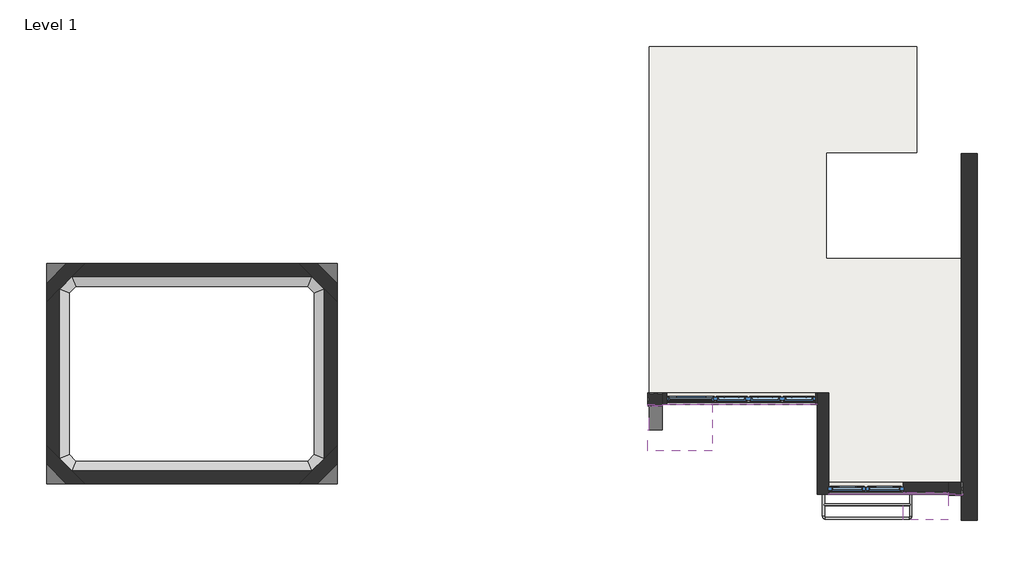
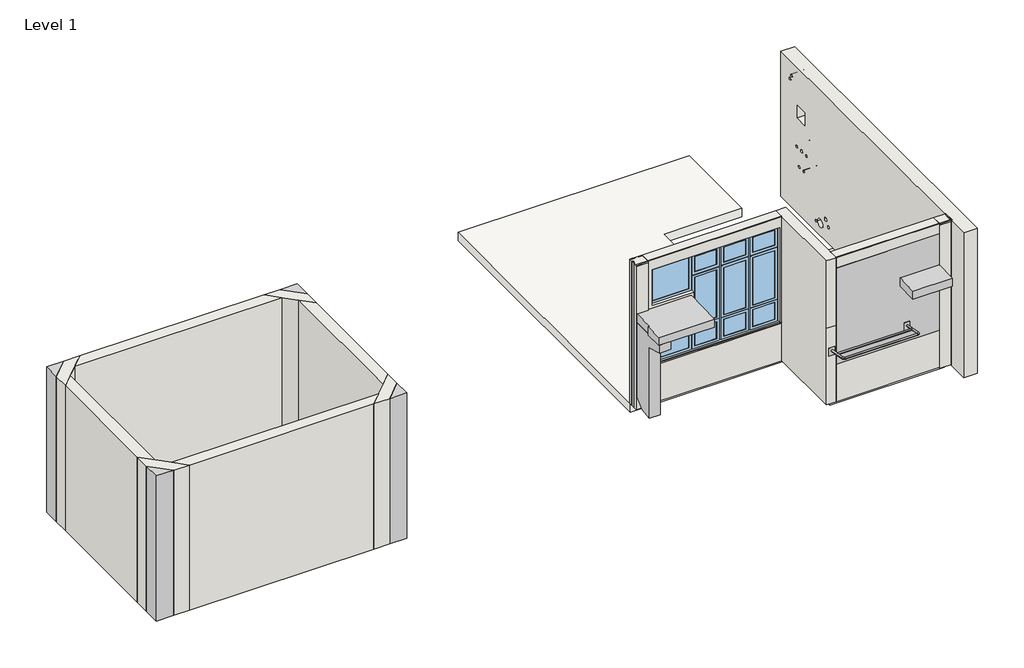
# One storey, incomplete: 26 proxies, 14 walls, 2 windows, 1 slab.
"""IFC4 building model written with IfcOpenShell, lengths in millimetres."""

from ifc_helpers import new_model, si_unit, frame, origin, origin_with_axes, place, context, project, spatial, polyline, circle_curve, outline, extrude, faceted_brep, transform, mapped, element, save
from ifc_brep_helpers import plane_surface, revolved_surface, advanced_brep
from components import generic_models_a9f7fed1, concrete_930x750mm_175e94f5, gmd_non_haa_facade_7_gmd_non_haa_facade_7_836f1545, window_dd2f97a1, glass_x5_4ce3d7e7

model = new_model("IFC4")

# Units and contexts
model_context = context("Model", 3, world=origin())
ifc_project = project(units=[si_unit("LENGTHUNIT", "METRE", prefix="MILLI")], contexts=[model_context])

# Site, building, storey
site = spatial("IfcSite", under=ifc_project)
building = spatial("IfcBuilding", under=site)
storey = spatial("IfcBuildingStorey", under=building, Name="Level 1", Elevation=0.0)

# Proxies
placement = place(None, origin())
element("IfcBuildingElementProxy", 1, Name="Wall Sweeps", at=placement, inside=storey, context=model_context, shape_type="Brep", body=[
    faceted_brep([(-64.9378587, 6827.1106614, 0.0), (-127.069893, 6677.1106614, 0.0), (-127.069893, 6677.1106614, 150.0), (3519.6633815, 6827.1106614, 0.0), (3581.7954158, 6677.1106614, 150.0), (3581.7954158, 6677.1106614, 0.0)], [[[0, 1, 2]], [[3, 4, 5]], [[1, 0, 3, 5]], [[2, 1, 5, 4]], [[0, 2, 4, 3]]]),
])
element("IfcBuildingElementProxy", 2, Name="Wall Sweeps", at=placement, inside=storey, context=model_context, shape_type="Brep", body=[
    faceted_brep([(3622.9366849, 6930.3839648, 0.0), (3772.9366849, 6868.2519304, 0.0), (3772.9366849, 6868.2519304, 150.0), (3622.9366849, 9430.9441391, 0.0), (3772.9366849, 9493.0761735, 150.0), (3772.9366849, 9493.0761735, 0.0)], [[[0, 1, 2]], [[3, 4, 5]], [[1, 0, 3, 5]], [[2, 1, 5, 4]], [[0, 2, 4, 3]]]),
])
element("IfcBuildingElementProxy", 3, Name="Wall Sweeps", at=placement, inside=storey, context=model_context, shape_type="Brep", body=[
    faceted_brep([(3519.6633815, 9534.2174426, 0.0), (3581.7954158, 9684.2174426, 0.0), (3581.7954158, 9684.2174426, 150.0), (-64.9378587, 9534.2174426, 0.0), (-127.069893, 9684.2174426, 150.0), (-127.069893, 9684.2174426, 0.0)], [[[0, 1, 2]], [[3, 4, 5]], [[1, 0, 3, 5]], [[2, 1, 5, 4]], [[0, 2, 4, 3]]]),
])
element("IfcBuildingElementProxy", 4, Name="Wall Sweeps", at=placement, inside=storey, context=model_context, shape_type="Brep", body=[
    faceted_brep([(-64.9378587, 9534.2174426, 0.0), (-127.069893, 9684.2174426, 0.0), (-127.069893, 9684.2174426, 150.0), (-168.2111621, 9430.9441391, 0.0), (-318.2111621, 9493.0761735, 150.0), (-318.2111621, 9493.0761735, 0.0)], [[[0, 1, 2]], [[3, 4, 5]], [[1, 0, 3, 5]], [[2, 1, 5, 4]], [[0, 2, 4, 3]]]),
])
element("IfcBuildingElementProxy", 5, Name="Wall Sweeps", at=placement, inside=storey, context=model_context, shape_type="Brep", body=[
    faceted_brep([(-168.2111621, 9430.9441391, 0.0), (-318.2111621, 9493.0761735, 0.0), (-318.2111621, 9493.0761735, 150.0), (-168.2111621, 6930.3839648, 0.0), (-318.2111621, 6868.2519304, 150.0), (-318.2111621, 6868.2519304, 0.0)], [[[0, 1, 2]], [[3, 4, 5]], [[1, 0, 3, 5]], [[2, 1, 5, 4]], [[0, 2, 4, 3]]]),
])
element("IfcBuildingElementProxy", 6, Name="PRF-SWP-HAA-Concrete Triangle-218mm", ObjectType="PRF-SWP-HAA-Concrete Triangle-218mm", at=placement, inside=storey, context=model_context, shape_type="SweptSolid", body=[
    extrude(outline(polyline([(-209.9126055, 9884.2174426), (-518.2111621, 9575.918886), (-518.2111621, 9884.2174426), (-209.9126055, 9884.2174426)])), origin_with_axes(), (0.0, 0.0, 1.0), 2750.0),
])
element("IfcBuildingElementProxy", 7, Name="Wall Sweeps", at=placement, inside=storey, context=model_context, shape_type="Brep", body=[
    faceted_brep([(3519.6633815, 9534.2174426, 0.0), (3581.7954158, 9684.2174426, 150.0), (3581.7954158, 9684.2174426, 0.0), (3622.9366849, 9430.9441391, 0.0), (3772.9366849, 9493.0761735, 0.0), (3772.9366849, 9493.0761735, 150.0)], [[[0, 1, 2]], [[3, 4, 5]], [[0, 2, 4, 3]], [[2, 1, 5, 4]], [[1, 0, 3, 5]]]),
])
element("IfcBuildingElementProxy", 8, Name="PRF-SWP-HAA-Concrete Triangle-218mm", ObjectType="PRF-SWP-HAA-Concrete Triangle-218mm", at=placement, inside=storey, context=model_context, shape_type="SweptSolid", body=[
    extrude(outline(polyline([(3664.6381283, 9884.2174426), (3972.9366849, 9884.2174426), (3972.9366849, 9575.918886), (3664.6381283, 9884.2174426)])), origin_with_axes(), (0.0, 0.0, 1.0), 2750.0),
])
element("IfcBuildingElementProxy", 9, Name="Wall Sweeps", at=placement, inside=storey, context=model_context, shape_type="Brep", body=[
    faceted_brep([(-64.9378587, 6827.1106614, 0.0), (-127.069893, 6677.1106614, 150.0), (-127.069893, 6677.1106614, 0.0), (-168.2111621, 6930.3839648, 0.0), (-318.2111621, 6868.2519304, 0.0), (-318.2111621, 6868.2519304, 150.0)], [[[0, 1, 2]], [[3, 4, 5]], [[0, 2, 4, 3]], [[2, 1, 5, 4]], [[1, 0, 3, 5]]]),
])
element("IfcBuildingElementProxy", 10, Name="PRF-SWP-HAA-Concrete Triangle-218mm", ObjectType="PRF-SWP-HAA-Concrete Triangle-218mm", at=placement, inside=storey, context=model_context, shape_type="SweptSolid", body=[
    extrude(outline(polyline([(-209.9126055, 6477.1106614), (-518.2111621, 6477.1106614), (-518.2111621, 6785.409218), (-209.9126055, 6477.1106614)])), origin_with_axes(), (0.0, 0.0, 1.0), 2750.0),
])
element("IfcBuildingElementProxy", 11, Name="Wall Sweeps", at=placement, inside=storey, context=model_context, shape_type="Brep", body=[
    faceted_brep([(3519.6633815, 6827.1106614, 0.0), (3581.7954158, 6677.1106614, 0.0), (3581.7954158, 6677.1106614, 150.0), (3622.9366849, 6930.3839648, 0.0), (3772.9366849, 6868.2519304, 150.0), (3772.9366849, 6868.2519304, 0.0)], [[[0, 1, 2]], [[3, 4, 5]], [[1, 0, 3, 5]], [[2, 1, 5, 4]], [[0, 2, 4, 3]]]),
])
element("IfcBuildingElementProxy", 12, Name="PRF-SWP-HAA-Concrete Triangle-218mm", ObjectType="PRF-SWP-HAA-Concrete Triangle-218mm", at=placement, inside=storey, context=model_context, shape_type="SweptSolid", body=[
    extrude(outline(polyline([(3664.6381283, 6477.1106614), (3972.9366849, 6785.409218), (3972.9366849, 6477.1106614), (3664.6381283, 6477.1106614)])), origin_with_axes(), (0.0, 0.0, 1.0), 2750.0),
])
element("IfcBuildingElementProxy", 13, Name="30mm D X 1825mm H Facade Wall Recess", ObjectType="30mm D X 1825mm H Facade Wall Recess", at=placement, inside=storey, context=model_context, shape_type="SweptSolid", body=[
    extrude(outline(polyline([(6319.2174378, 725.0), (6319.2174378, 2550.0), (6349.2174378, 2550.0), (6349.2174378, 750.0), (6319.2174378, 725.0)])), frame((11572.1249538, 0.0, 0.0), z_axis=(1.0, 0.0, 0.0), x_axis=(0.0, 1.0, 0.0)), (0.0, 0.0, 1.0), 1849.9534875),
])
element("IfcBuildingElementProxy", 14, Name="Reveal 30W x 25H Chamfer", ObjectType="Reveal 30W x 25H Chamfer", at=placement, inside=storey, context=model_context, shape_type="SweptSolid", body=[
    extrude(outline(polyline([(7734.2174426, 750.0), (7704.2174426, 725.0), (7704.2174426, 750.0), (7734.2174426, 750.0)])), frame((8997.125007, 0.0, 0.0), z_axis=(1.0, 0.0, 0.0), x_axis=(0.0, 1.0, 0.0)), (0.0, 0.0, 1.0), 2399.9999467),
])
generic_models_shape = generic_models_a9f7fed1(model_context)
element("IfcBuildingElementProxy", 15, Name="GMD-NON-HAA-Laundry Rack  for D-3 : GMD-NON-HAA-Metal Laundry Rack for D-3", ObjectType="GMD-NON-HAA-Laundry Rack  for D-3 : GMD-NON-HAA-Metal Laundry Rack for D-3", at=placement, inside=storey, context=model_context, shape_type="MappedRepresentation", body=[
    mapped(generic_models_shape, transform((12177.1250044, 6254.2174362, 0.0), x_axis=(-1.0, 0.0, 0.0), y_axis=(0.0, -1.0, 0.0), z_axis=(0.0, 0.0, 1.0))),
])
element("IfcBuildingElementProxy", 16, Name="200mm Facade Wall Joint", ObjectType="200mm Facade Wall Joint", at=placement, inside=storey, context=model_context, shape_type="SweptSolid", body=[
    extrude(outline(polyline([(8912.125007, 7884.2174426), (8997.125007, 7884.2174426), (8997.125007, 7864.2174426), (8932.125007, 7864.2174426), (8912.125007, 7884.2174426)])), frame((0.0, 0.0, 20.0), z_axis=(0.0, 0.0, 1.0), x_axis=(1.0, 0.0, 0.0)), (0.0, 0.0, 1.0), 2730.0),
    extrude(outline(polyline([(8862.125007, 7864.2174426), (8797.125007, 7864.2174426), (8797.125007, 7884.2174426), (8882.125007, 7884.2174426), (8862.125007, 7864.2174426)])), frame((0.0, 0.0, 20.0), z_axis=(0.0, 0.0, 1.0), x_axis=(1.0, 0.0, 0.0)), (0.0, 0.0, 1.0), 2730.0),
])
element("IfcBuildingElementProxy", 17, Name="GMD-OTR-HAA-AC_Platform-Type2-Concrete : Concrete- 650X425mm", ObjectType="GMD-OTR-HAA-AC_Platform-Type2-Concrete : Concrete- 650X425mm", at=placement, inside=storey, context=model_context, shape_type="Brep", body=[
    faceted_brep([(13422.1250044, 6349.2174378, 1800.0), (13422.1250044, 6349.2174378, 1965.0), (13422.1250044, 5924.2174378, 1950.0), (13422.1250044, 5924.2174378, 1800.0), (12722.1250044, 6349.2174378, 1800.0), (12722.1250044, 5924.2174378, 1800.0), (12722.1250044, 5924.2174378, 1950.0), (12722.1250044, 6349.2174378, 1965.0), (13362.1250044, 6349.2174378, 1800.0), (13354.1250044, 6349.2174378, 1812.0), (13342.1250044, 6349.2174378, 1812.0), (13342.1250044, 6349.2174378, 1800.0), (12802.1250044, 6349.2174378, 1800.0), (12802.1250044, 6349.2174378, 1812.0), (12790.1250044, 6349.2174378, 1812.0), (12782.1250044, 6349.2174378, 1800.0), (12782.1250044, 5984.2174378, 1800.0), (13362.1250044, 5984.2174378, 1800.0), (13342.1250044, 6004.2174378, 1800.0), (12802.1250044, 6004.2174378, 1800.0), (12802.1250044, 6004.2174378, 1812.0), (12790.1250044, 5992.2174378, 1812.0), (13342.1250044, 6004.2174378, 1812.0), (13354.1250044, 5992.2174378, 1812.0)], [[[0, 1, 2, 3]], [[4, 5, 6, 7]], [[1, 0, 8, 9, 10, 11, 12, 13, 14, 15, 4, 7]], [[2, 1, 7, 6]], [[3, 2, 6, 5]], [[0, 3, 5, 4, 15, 16, 17, 8]], [[12, 11, 18, 19]], [[19, 20, 13, 12]], [[14, 21, 16, 15]], [[13, 20, 22, 10, 9, 23, 21, 14]], [[20, 19, 18, 22]], [[16, 21, 23, 17]], [[10, 22, 18, 11]], [[23, 9, 8, 17]]]),
])
concrete_930x750mm_shape = concrete_930x750mm_175e94f5(model_context)
element("IfcBuildingElementProxy", 18, Name="GMD-OTR-HAA-AC_Platform-Type4-Concrete : Concrete-930X750mm", ObjectType="GMD-OTR-HAA-AC_Platform-Type4-Concrete : Concrete-930X750mm", at=placement, inside=storey, context=model_context, shape_type="MappedRepresentation", body=[
    mapped(concrete_930x750mm_shape, transform((8777.1251524, 7704.2174426, -140.0), x_axis=(1.0, 0.0, 0.0), y_axis=(0.0, 1.0, 0.0), z_axis=(0.0, 0.0, 1.0))),
])
element("IfcBuildingElementProxy", 19, Name="Facade Head Chamfer 25.78x25.78", ObjectType="Facade Head Chamfer 25.78x25.78", at=placement, inside=storey, context=model_context, shape_type="SweptSolid", body=[
    extrude(outline(polyline([(6299.2174378, 2750.0), (6324.9974378, 2750.0), (6299.2174378, 2724.22), (6299.2174378, 2750.0)])), frame((13422.1250044, 0.0, 0.0), z_axis=(1.0, 0.0, 0.0), x_axis=(0.0, 1.0, 0.0)), (0.0, 0.0, 1.0), 219.9534369),
])
element("IfcBuildingElementProxy", 20, Name="Facade Head Chamfer 25.78x25.78", ObjectType="Facade Head Chamfer 25.78x25.78", at=placement, inside=storey, context=model_context, shape_type="SweptSolid", body=[
    extrude(outline(polyline([(7684.2174426, 2750.0), (7709.9974426, 2750.0), (7684.2174426, 2724.22), (7684.2174426, 2750.0)])), frame((8777.125007, 0.0, 0.0), z_axis=(1.0, 0.0, 0.0), x_axis=(0.0, 1.0, 0.0)), (0.0, 0.0, 1.0), 220.0),
])
element("IfcBuildingElementProxy", 21, Name="Facade Head Chamfer 5.78x5.78", ObjectType="Facade Head Chamfer 5.78x5.78", at=placement, inside=storey, context=model_context, shape_type="SweptSolid", body=[
    extrude(outline(polyline([(6324.9974378, 2750.0), (6319.2174378, 2744.22), (6319.2174378, 2750.0), (6324.9974378, 2750.0)])), frame((11572.2847977, 0.0, 0.0), z_axis=(1.0, 0.0, 0.0), x_axis=(0.0, 1.0, 0.0)), (0.0, 0.0, 1.0), 1849.8402067),
])
element("IfcBuildingElementProxy", 22, Name="Facade Head Chamfer 5.78x5.78", ObjectType="Facade Head Chamfer 5.78x5.78", at=placement, inside=storey, context=model_context, shape_type="SweptSolid", body=[
    extrude(outline(polyline([(7709.9974426, 2750.0), (7704.2174426, 2744.22), (7704.2174426, 2750.0), (7709.9974426, 2750.0)])), frame((8997.125007, 0.0, 0.0), z_axis=(1.0, 0.0, 0.0), x_axis=(0.0, 1.0, 0.0)), (0.0, 0.0, 1.0), 2399.9999467),
])
element("IfcBuildingElementProxy", 23, Name="Facade Wall Joint", ObjectType="Facade Wall Joint", at=placement, inside=storey, context=model_context, shape_type="SweptSolid", body=[
    extrude(outline(polyline([(13622.0784413, 6414.2174378), (13622.0784413, 6499.2174378), (13642.0784413, 6499.2174378), (13642.0784413, 6434.2174378), (13622.0784413, 6414.2174378)])), origin_with_axes(), (0.0, 0.0, 1.0), 2750.0),
    extrude(outline(polyline([(13642.0784413, 6364.2174378), (13642.0784413, 6299.2174378), (13622.0784413, 6299.2174378), (13622.0784413, 6384.2174378), (13642.0784413, 6364.2174378)])), origin_with_axes(), (0.0, 0.0, 1.0), 2750.0),
])
element("IfcBuildingElementProxy", 24, Name="Facade Wall Key", ObjectType="Facade Wall Key", at=placement, inside=storey, context=model_context, shape_type="SweptSolid", body=[
    extrude(outline(polyline([(13642.0784413, 6364.2154743), (13622.0784413, 6384.2154743), (13622.0784413, 6414.2154743), (13642.0784413, 6434.2154743), (13642.0784413, 6364.2154743)])), frame((0.0, 0.0, 20.0), z_axis=(0.0, 0.0, 1.0), x_axis=(1.0, 0.0, 0.0)), (0.0, 0.0, 1.0), 2730.0),
])
element("IfcBuildingElementProxy", 25, Name="Facade Wall Key", ObjectType="Facade Wall Key", at=placement, inside=storey, context=model_context, shape_type="SweptSolid", body=[
    extrude(outline(polyline([(8777.125007, 7749.2174426), (8777.125007, 7819.2174426), (8797.125007, 7799.2174426), (8797.125007, 7769.2174426), (8777.125007, 7749.2174426)])), frame((0.0, 0.0, 20.0), z_axis=(0.0, 0.0, 1.0), x_axis=(1.0, 0.0, 0.0)), (0.0, 0.0, 1.0), 2730.0),
])
gmd_non_haa_facade_7_gmd_non_haa_facade_7_shape = gmd_non_haa_facade_7_gmd_non_haa_facade_7_836f1545(model_context)
element("IfcBuildingElementProxy", 26, Name="GMD-NON-HAA-Facade 7 : GMD-NON-HAA-Facade 7", ObjectType="GMD-NON-HAA-Facade 7 : GMD-NON-HAA-Facade 7", at=placement, inside=storey, context=model_context, shape_type="MappedRepresentation", body=[
    mapped(gmd_non_haa_facade_7_gmd_non_haa_facade_7_shape, transform((8997.125007, 7684.2174426, 75.0), x_axis=(-1.0, 0.0, 0.0), y_axis=(0.0, -1.0, 0.0), z_axis=(0.0, 0.0, 1.0))),
])

# Slab
element("IfcSlab", 27, ObjectType="OGS-HAA-Concrete-160mm", at=placement, inside=storey, context=model_context, shape_type="SweptSolid", body=[
    extrude(outline(polyline([(11572.1249538, 6509.2227099), (11572.1249538, 7894.2227146), (8797.125007, 7894.2227146), (8797.125007, 13244.3917942), (12937.1250118, 13244.3917942), (12937.1250118, 11604.2221918), (11537.1249507, 11604.2221918), (11537.1249507, 9964.2221915), (13622.0784413, 9964.2221915), (13622.0784413, 6509.2227099), (11572.1249538, 6509.2227099)])), frame((0.0, 0.0, -160.0), z_axis=(0.0, 0.0, 1.0), x_axis=(1.0, 0.0, 0.0)), (0.0, 0.0, 1.0), 160.0),
])

# Walls
element("IfcWall", 28, ObjectType="AWL-HAA-Concrete Water Tank-250mm", at=placement, inside=storey, context=model_context, shape_type="SweptSolid", body=[
    extrude(outline(polyline([(3381.7954158, 6477.1106614), (72.930107, 6477.1106614), (-127.069893, 6677.1106614), (3581.7954158, 6677.1106614), (3381.7954158, 6477.1106614)])), origin_with_axes(), (0.0, 0.0, 1.0), 2750.0),
])
element("IfcWall", 29, ObjectType="AWL-HAA-Concrete Water Tank-250mm", at=placement, inside=storey, context=model_context, shape_type="SweptSolid", body=[
    extrude(outline(polyline([(3972.9366849, 9293.0761735), (3972.9366849, 7068.2519304), (3772.9366849, 6868.2519304), (3772.9366849, 9493.0761735), (3972.9366849, 9293.0761735)])), origin_with_axes(), (0.0, 0.0, 1.0), 2750.0),
])
element("IfcWall", 30, ObjectType="AWL-HAA-Concrete Water Tank-250mm", at=placement, inside=storey, context=model_context, shape_type="SweptSolid", body=[
    extrude(outline(polyline([(72.930107, 9884.2174426), (3381.7954158, 9884.2174426), (3581.7954158, 9684.2174426), (-127.069893, 9684.2174426), (72.930107, 9884.2174426)])), origin_with_axes(), (0.0, 0.0, 1.0), 2750.0),
])
element("IfcWall", 31, ObjectType="AWL-HAA-Concrete Water Tank-250mm", at=placement, inside=storey, context=model_context, shape_type="Brep", body=[
    faceted_brep([(-209.9126055, 9884.2174426, 0.0), (-518.2111621, 9575.918886, 0.0), (-518.2111621, 9575.918886, 2750.0), (-209.9126055, 9884.2174426, 2750.0), (72.930107, 9884.2174426, 2750.0), (-127.069893, 9684.2174426, 2750.0), (-318.2111621, 9493.0761735, 2750.0), (-518.2111621, 9293.0761735, 2750.0), (-518.2111621, 9293.0761735, 0.0), (-318.2111621, 9493.0761735, 0.0), (-127.069893, 9684.2174426, 0.0), (72.930107, 9884.2174426, 0.0)], [[[0, 1, 2, 3]], [[4, 5, 6, 7, 8, 9, 10, 11]], [[1, 0, 11, 10, 9, 8]], [[3, 2, 7, 6, 5, 4]], [[0, 3, 4, 11]], [[2, 1, 8, 7]]]),
])
element("IfcWall", 32, ObjectType="AWL-HAA-Concrete Water Tank-250mm", at=placement, inside=storey, context=model_context, shape_type="SweptSolid", body=[
    extrude(outline(polyline([(-518.2111621, 7068.2519304), (-518.2111621, 9293.0761735), (-318.2111621, 9493.0761735), (-318.2111621, 6868.2519304), (-518.2111621, 7068.2519304)])), origin_with_axes(), (0.0, 0.0, 1.0), 2750.0),
])
element("IfcWall", 33, ObjectType="AWL-HAA-Concrete Water Tank-250mm", at=placement, inside=storey, context=model_context, shape_type="Brep", body=[
    faceted_brep([(3972.9366849, 9293.0761735, 2750.0), (3772.9366849, 9493.0761735, 2750.0), (3581.7954158, 9684.2174426, 2750.0), (3381.7954158, 9884.2174426, 2750.0), (3381.7954158, 9884.2174426, 0.0), (3581.7954158, 9684.2174426, 0.0), (3772.9366849, 9493.0761735, 0.0), (3972.9366849, 9293.0761735, 0.0), (3972.9366849, 9575.918886, 0.0), (3664.6381283, 9884.2174426, 0.0), (3664.6381283, 9884.2174426, 2750.0), (3972.9366849, 9575.918886, 2750.0)], [[[0, 1, 2, 3, 4, 5, 6, 7]], [[8, 9, 10, 11]], [[9, 8, 7, 6, 5, 4]], [[3, 2, 1, 0, 11, 10]], [[0, 7, 8, 11]], [[4, 3, 10, 9]]]),
])
element("IfcWall", 34, ObjectType="AWL-HAA-Concrete Water Tank-250mm", at=placement, inside=storey, context=model_context, shape_type="Brep", body=[
    faceted_brep([(-518.2111621, 7068.2519304, 2750.0), (-318.2111621, 6868.2519304, 2750.0), (-127.069893, 6677.1106614, 2750.0), (72.930107, 6477.1106614, 2750.0), (72.930107, 6477.1106614, 0.0), (-127.069893, 6677.1106614, 0.0), (-318.2111621, 6868.2519304, 0.0), (-518.2111621, 7068.2519304, 0.0), (-518.2111621, 6785.409218, 0.0), (-209.9126055, 6477.1106614, 0.0), (-209.9126055, 6477.1106614, 2750.0), (-518.2111621, 6785.409218, 2750.0)], [[[0, 1, 2, 3, 4, 5, 6, 7]], [[8, 9, 10, 11]], [[9, 8, 7, 6, 5, 4]], [[3, 2, 1, 0, 11, 10]], [[4, 3, 10, 9]], [[0, 7, 8, 11]]]),
])
element("IfcWall", 35, ObjectType="AWL-HAA-Concrete Water Tank-250mm", at=placement, inside=storey, context=model_context, shape_type="Brep", body=[
    faceted_brep([(3664.6381283, 6477.1106614, 0.0), (3972.9366849, 6785.409218, 0.0), (3972.9366849, 6785.409218, 2750.0), (3664.6381283, 6477.1106614, 2750.0), (3381.7954158, 6477.1106614, 2750.0), (3581.7954158, 6677.1106614, 2750.0), (3772.9366849, 6868.2519304, 2750.0), (3972.9366849, 7068.2519304, 2750.0), (3972.9366849, 7068.2519304, 0.0), (3772.9366849, 6868.2519304, 0.0), (3581.7954158, 6677.1106614, 0.0), (3381.7954158, 6477.1106614, 0.0)], [[[0, 1, 2, 3]], [[4, 5, 6, 7, 8, 9, 10, 11]], [[1, 0, 11, 10, 9, 8]], [[3, 2, 7, 6, 5, 4]], [[0, 3, 4, 11]], [[2, 1, 8, 7]]]),
])
element("IfcWall", 36, ObjectType="AWL-HAA-Concrete-250mm", at=placement, inside=storey, context=model_context, shape_type="AdvancedBrep", body=[
    advanced_brep(
    [(13622.0784413, 5914.2158321, 0.0), (13622.0784413, 5914.2158321, 2750.0), (13622.0784413, 6299.2174378, 2750.0), (13622.0784413, 6299.2174378, 0.0), (13622.0784413, 11584.2169271, 2750.0), (13622.0784413, 11584.2169271, 0.0), (13622.0784413, 6499.2174378, 0.0), (13622.0784413, 6499.2174378, 2750.0), (13622.0784413, 10474.2173238, 200.0), (13622.0784413, 10514.2173238, 200.0), (13622.0784413, 11239.2169271, 2485.0), (13622.0784413, 11279.2169271, 2485.0), (13622.0784413, 10774.3635224, 1245.0), (13622.0784413, 10814.3635224, 1245.0), (13622.0784413, 10919.3583918, 1245.0), (13622.0784413, 10969.3583918, 1245.0), (13622.0784413, 11074.3583918, 1245.0), (13622.0784413, 11114.3583918, 1245.0), (13622.0784413, 10849.3635224, 900.0), (13622.0784413, 10889.3635224, 900.0), (13622.0784413, 10999.3635224, 900.0), (13622.0784413, 11039.3635224, 900.0), (13622.0784413, 10084.0299246, 310.0), (13622.0784413, 10134.0299246, 310.0), (13622.0784413, 10161.7173238, 405.0), (13622.0784413, 10226.7173238, 405.0), (13622.0784413, 10289.2039242, 235.0), (13622.0784413, 10439.2039242, 235.0), (13622.0784413, 11289.2169271, 2400.3), (13622.0784413, 11329.2169271, 2400.3), (13622.0784413, 11074.2168818, 2035.0), (13622.0784413, 10834.3583918, 2035.0), (13622.0784413, 10834.3583918, 1795.0), (13622.0784413, 11074.2168818, 1795.0), (13622.0784413, 6414.2174378, 0.0), (13622.0784413, 6384.2174378, 0.0), (13622.0784413, 6384.2174378, 2750.0), (13622.0784413, 6414.2174378, 2750.0), (13872.0784413, 5914.2158321, 0.0), (13872.0784413, 11584.2169271, 0.0), (13872.0784413, 11584.2169271, 2750.0), (13872.0784413, 5914.2158321, 2750.0), (13872.0784413, 10514.2173238, 200.0), (13872.0784413, 10474.2173238, 200.0), (13872.0784413, 11279.2169271, 2485.0), (13872.0784413, 11239.2169271, 2485.0), (13872.0784413, 10814.3635224, 1245.0), (13872.0784413, 10774.3635224, 1245.0), (13872.0784413, 10969.3583918, 1245.0), (13872.0784413, 10919.3583918, 1245.0), (13872.0784413, 11114.3583918, 1245.0), (13872.0784413, 11074.3583918, 1245.0), (13872.0784413, 10889.3635224, 900.0), (13872.0784413, 10849.3635224, 900.0), (13872.0784413, 11039.3635224, 900.0), (13872.0784413, 10999.3635224, 900.0), (13872.0784413, 10134.0299246, 310.0), (13872.0784413, 10084.0299246, 310.0), (13872.0784413, 10226.7173238, 405.0), (13872.0784413, 10161.7173238, 405.0), (13872.0784413, 10439.2039242, 235.0), (13872.0784413, 10289.2039242, 235.0), (13872.0784413, 11329.2169271, 2400.3), (13872.0784413, 11289.2169271, 2400.3), (13872.0784413, 10834.3583918, 2035.0), (13872.0784413, 11074.2168818, 2035.0), (13872.0784413, 11074.2168818, 1795.0), (13872.0784413, 10834.3583918, 1795.0), (13642.0784413, 6299.2174378, 0.0), (13642.0784413, 6364.2174378, 0.0), (13642.0784413, 6434.2174378, 0.0), (13642.0784413, 6499.2174378, 0.0), (13642.0784413, 6499.2174378, 2750.0), (13642.0784413, 6434.2174378, 2750.0), (13642.0784413, 6364.2174378, 2750.0), (13642.0784413, 6299.2174378, 2750.0)],
    [
        (0, 1),
        (1, 2),
        (2, 3),
        (3, 0),
        (4, 5),
        (5, 6),
        (6, 7),
        (7, 4),
        (8, 9, circle_curve(frame((13622.0784413, 10494.2173238, 200.0), z_axis=(1.0, 0.0, 0.0), x_axis=(0.0, 1.0, 0.0)), 20.0)),
        (9, 8, circle_curve(frame((13622.0784413, 10494.2173238, 200.0), z_axis=(1.0, 0.0, 0.0), x_axis=(0.0, 1.0, 0.0)), 20.0)),
        (10, 11, circle_curve(frame((13622.0784413, 11259.2169271, 2485.0), z_axis=(1.0, 0.0, 0.0), x_axis=(0.0, 1.0, 0.0)), 20.0)),
        (11, 10, circle_curve(frame((13622.0784413, 11259.2169271, 2485.0), z_axis=(1.0, 0.0, 0.0), x_axis=(0.0, 1.0, 0.0)), 20.0)),
        (12, 13, circle_curve(frame((13622.0784413, 10794.3635224, 1245.0), z_axis=(1.0, 0.0, 0.0), x_axis=(0.0, 1.0, 0.0)), 20.0)),
        (13, 12, circle_curve(frame((13622.0784413, 10794.3635224, 1245.0), z_axis=(1.0, 0.0, 0.0), x_axis=(0.0, 1.0, 0.0)), 20.0)),
        (14, 15, circle_curve(frame((13622.0784413, 10944.3583918, 1245.0), z_axis=(1.0, 0.0, 0.0), x_axis=(0.0, 1.0, 0.0)), 25.0)),
        (15, 14, circle_curve(frame((13622.0784413, 10944.3583918, 1245.0), z_axis=(1.0, 0.0, 0.0), x_axis=(0.0, 1.0, 0.0)), 25.0)),
        (16, 17, circle_curve(frame((13622.0784413, 11094.3583918, 1245.0), z_axis=(1.0, 0.0, 0.0), x_axis=(0.0, 1.0, 0.0)), 20.0)),
        (17, 16, circle_curve(frame((13622.0784413, 11094.3583918, 1245.0), z_axis=(1.0, 0.0, 0.0), x_axis=(0.0, 1.0, 0.0)), 20.0)),
        (18, 19, circle_curve(frame((13622.0784413, 10869.3635224, 900.0), z_axis=(1.0, 0.0, 0.0), x_axis=(0.0, 1.0, 0.0)), 20.0)),
        (19, 18, circle_curve(frame((13622.0784413, 10869.3635224, 900.0), z_axis=(1.0, 0.0, 0.0), x_axis=(0.0, 1.0, 0.0)), 20.0)),
        (20, 21, circle_curve(frame((13622.0784413, 11019.3635224, 900.0), z_axis=(1.0, 0.0, 0.0), x_axis=(0.0, 1.0, 0.0)), 20.0)),
        (21, 20, circle_curve(frame((13622.0784413, 11019.3635224, 900.0), z_axis=(1.0, 0.0, 0.0), x_axis=(0.0, 1.0, 0.0)), 20.0)),
        (22, 23, circle_curve(frame((13622.0784413, 10109.0299246, 310.0), z_axis=(1.0, 0.0, 0.0), x_axis=(0.0, 1.0, 0.0)), 25.0)),
        (23, 22, circle_curve(frame((13622.0784413, 10109.0299246, 310.0), z_axis=(1.0, 0.0, 0.0), x_axis=(0.0, 1.0, 0.0)), 25.0)),
        (24, 25, circle_curve(frame((13622.0784413, 10194.2173238, 405.0), z_axis=(1.0, 0.0, 0.0), x_axis=(0.0, 1.0, 0.0)), 32.5)),
        (25, 24, circle_curve(frame((13622.0784413, 10194.2173238, 405.0), z_axis=(1.0, 0.0, 0.0), x_axis=(0.0, 1.0, 0.0)), 32.5)),
        (26, 27, circle_curve(frame((13622.0784413, 10364.2039242, 235.0), z_axis=(1.0, 0.0, 0.0), x_axis=(0.0, 1.0, 0.0)), 75.0)),
        (27, 26, circle_curve(frame((13622.0784413, 10364.2039242, 235.0), z_axis=(1.0, 0.0, 0.0), x_axis=(0.0, 1.0, 0.0)), 75.0)),
        (28, 29, circle_curve(frame((13622.0784413, 11309.2169271, 2400.3), z_axis=(1.0, 0.0, 0.0), x_axis=(0.0, 1.0, 0.0)), 20.0)),
        (29, 28, circle_curve(frame((13622.0784413, 11309.2169271, 2400.3), z_axis=(1.0, 0.0, 0.0), x_axis=(0.0, 1.0, 0.0)), 20.0)),
        (30, 31),
        (31, 32),
        (32, 33),
        (33, 30),
        (34, 35),
        (35, 36),
        (36, 37),
        (37, 34),
        (38, 39),
        (39, 40),
        (40, 41),
        (41, 38),
        (42, 43, circle_curve(frame((13872.0784413, 10494.2173238, 200.0), z_axis=(-1.0, 0.0, 0.0), x_axis=(0.0, 1.0, 0.0)), 20.0)),
        (43, 42, circle_curve(frame((13872.0784413, 10494.2173238, 200.0), z_axis=(-1.0, 0.0, 0.0), x_axis=(0.0, 1.0, 0.0)), 20.0)),
        (44, 45, circle_curve(frame((13872.0784413, 11259.2169271, 2485.0), z_axis=(-1.0, 0.0, 0.0), x_axis=(0.0, 1.0, 0.0)), 20.0)),
        (45, 44, circle_curve(frame((13872.0784413, 11259.2169271, 2485.0), z_axis=(-1.0, 0.0, 0.0), x_axis=(0.0, 1.0, 0.0)), 20.0)),
        (46, 47, circle_curve(frame((13872.0784413, 10794.3635224, 1245.0), z_axis=(-1.0, 0.0, 0.0), x_axis=(0.0, 1.0, 0.0)), 20.0)),
        (47, 46, circle_curve(frame((13872.0784413, 10794.3635224, 1245.0), z_axis=(-1.0, 0.0, 0.0), x_axis=(0.0, 1.0, 0.0)), 20.0)),
        (48, 49, circle_curve(frame((13872.0784413, 10944.3583918, 1245.0), z_axis=(-1.0, 0.0, 0.0), x_axis=(0.0, 1.0, 0.0)), 25.0)),
        (49, 48, circle_curve(frame((13872.0784413, 10944.3583918, 1245.0), z_axis=(-1.0, 0.0, 0.0), x_axis=(0.0, 1.0, 0.0)), 25.0)),
        (50, 51, circle_curve(frame((13872.0784413, 11094.3583918, 1245.0), z_axis=(-1.0, 0.0, 0.0), x_axis=(0.0, 1.0, 0.0)), 20.0)),
        (51, 50, circle_curve(frame((13872.0784413, 11094.3583918, 1245.0), z_axis=(-1.0, 0.0, 0.0), x_axis=(0.0, 1.0, 0.0)), 20.0)),
        (52, 53, circle_curve(frame((13872.0784413, 10869.3635224, 900.0), z_axis=(-1.0, 0.0, 0.0), x_axis=(0.0, 1.0, 0.0)), 20.0)),
        (53, 52, circle_curve(frame((13872.0784413, 10869.3635224, 900.0), z_axis=(-1.0, 0.0, 0.0), x_axis=(0.0, 1.0, 0.0)), 20.0)),
        (54, 55, circle_curve(frame((13872.0784413, 11019.3635224, 900.0), z_axis=(-1.0, 0.0, 0.0), x_axis=(0.0, 1.0, 0.0)), 20.0)),
        (55, 54, circle_curve(frame((13872.0784413, 11019.3635224, 900.0), z_axis=(-1.0, 0.0, 0.0), x_axis=(0.0, 1.0, 0.0)), 20.0)),
        (56, 57, circle_curve(frame((13872.0784413, 10109.0299246, 310.0), z_axis=(-1.0, 0.0, 0.0), x_axis=(0.0, 1.0, 0.0)), 25.0)),
        (57, 56, circle_curve(frame((13872.0784413, 10109.0299246, 310.0), z_axis=(-1.0, 0.0, 0.0), x_axis=(0.0, 1.0, 0.0)), 25.0)),
        (58, 59, circle_curve(frame((13872.0784413, 10194.2173238, 405.0), z_axis=(-1.0, 0.0, 0.0), x_axis=(0.0, 1.0, 0.0)), 32.5)),
        (59, 58, circle_curve(frame((13872.0784413, 10194.2173238, 405.0), z_axis=(-1.0, 0.0, 0.0), x_axis=(0.0, 1.0, 0.0)), 32.5)),
        (60, 61, circle_curve(frame((13872.0784413, 10364.2039242, 235.0), z_axis=(-1.0, 0.0, 0.0), x_axis=(0.0, 1.0, 0.0)), 75.0)),
        (61, 60, circle_curve(frame((13872.0784413, 10364.2039242, 235.0), z_axis=(-1.0, 0.0, 0.0), x_axis=(0.0, 1.0, 0.0)), 75.0)),
        (62, 63, circle_curve(frame((13872.0784413, 11309.2169271, 2400.3), z_axis=(-1.0, 0.0, 0.0), x_axis=(0.0, 1.0, 0.0)), 20.0)),
        (63, 62, circle_curve(frame((13872.0784413, 11309.2169271, 2400.3), z_axis=(-1.0, 0.0, 0.0), x_axis=(0.0, 1.0, 0.0)), 20.0)),
        (64, 65),
        (65, 66),
        (66, 67),
        (67, 64),
        (38, 0),
        (3, 68),
        (68, 69),
        (69, 35),
        (34, 70),
        (70, 71),
        (71, 6),
        (5, 39),
        (41, 1),
        (40, 4),
        (7, 72),
        (72, 73),
        (73, 37),
        (36, 74),
        (74, 75),
        (75, 2),
        (8, 43),
        (42, 9),
        (10, 45),
        (44, 11),
        (12, 47),
        (46, 13),
        (14, 49),
        (48, 15),
        (16, 51),
        (50, 17),
        (18, 53),
        (52, 19),
        (20, 55),
        (54, 21),
        (22, 57),
        (56, 23),
        (24, 59),
        (58, 25),
        (26, 61),
        (60, 27),
        (28, 63),
        (62, 29),
        (30, 65),
        (64, 31),
        (67, 32),
        (66, 33),
        (73, 70),
        (72, 71),
        (69, 74),
        (75, 68),
    ],
    [
        plane_surface(frame((13622.0784413, 11584.2169271, 0.0), z_axis=(-1.0, 0.0, 0.0), x_axis=(0.0, -1.0, 0.0))),
        plane_surface(frame((13872.0784413, 11584.2169271, 0.0), z_axis=(1.0, 0.0, 0.0), x_axis=(0.0, 1.0, 0.0))),
        plane_surface(frame((13622.0784413, 11584.2169271, 0.0), z_axis=(0.0, 0.0, -1.0), x_axis=(1.0, 0.0, 0.0))),
        plane_surface(frame((13622.0784413, 5914.2158321, 0.0), z_axis=(0.0, -1.0, 0.0), x_axis=(1.0, 0.0, 0.0))),
        plane_surface(frame((13622.0784413, 5914.2158321, 2750.0), z_axis=(0.0, 0.0, 1.0), x_axis=(1.0, 0.0, 0.0))),
        plane_surface(frame((13622.0784413, 11584.2169271, 2750.0), z_axis=(0.0, 1.0, 0.0), x_axis=(1.0, 0.0, 0.0))),
        revolved_surface(polyline([(13872.0784413, 10514.2173238, 200.0), (13622.0784413, 10514.2173238, 200.0)]), (13747.0784413, 10494.2173238, 200.0), (1.0, 0.0, 0.0)),
        revolved_surface(polyline([(13872.0784413, 11279.2169271, 2485.0), (13622.0784413, 11279.2169271, 2485.0)]), (13747.0784413, 11259.2169271, 2485.0), (1.0, 0.0, 0.0)),
        revolved_surface(polyline([(13872.0784413, 10814.3635224, 1245.0), (13622.0784413, 10814.3635224, 1245.0)]), (13747.0784413, 10794.3635224, 1245.0), (1.0, 0.0, 0.0)),
        revolved_surface(polyline([(13872.0784413, 10969.3583918, 1245.0), (13622.0784413, 10969.3583918, 1245.0)]), (13747.0784413, 10944.3583918, 1245.0), (1.0, 0.0, 0.0)),
        revolved_surface(polyline([(13872.0784413, 11114.3583918, 1245.0), (13622.0784413, 11114.3583918, 1245.0)]), (13747.0784413, 11094.3583918, 1245.0), (1.0, 0.0, 0.0)),
        revolved_surface(polyline([(13872.0784413, 10889.3635224, 900.0), (13622.0784413, 10889.3635224, 900.0)]), (13747.0784413, 10869.3635224, 900.0), (1.0, 0.0, 0.0)),
        revolved_surface(polyline([(13872.0784413, 11039.3635224, 900.0), (13622.0784413, 11039.3635224, 900.0)]), (13747.0784413, 11019.3635224, 900.0), (1.0, 0.0, 0.0)),
        revolved_surface(polyline([(13872.0784413, 10134.0299246, 310.0), (13622.0784413, 10134.0299246, 310.0)]), (13747.0784413, 10109.0299246, 310.0), (1.0, 0.0, 0.0)),
        revolved_surface(polyline([(13872.0784413, 10226.7173238, 405.0), (13622.0784413, 10226.7173238, 405.0)]), (13747.0784413, 10194.2173238, 405.0), (1.0, 0.0, 0.0)),
        revolved_surface(polyline([(13872.0784413, 10439.2039242, 235.0), (13622.0784413, 10439.2039242, 235.0)]), (13747.0784413, 10364.2039242, 235.0), (1.0, 0.0, 0.0)),
        revolved_surface(polyline([(13872.0784413, 11329.2169271, 2400.3), (13622.0784413, 11329.2169271, 2400.3)]), (13747.0784413, 11309.2169271, 2400.3), (1.0, 0.0, 0.0)),
        plane_surface(frame((13622.0784413, 11074.2168818, 2035.0), z_axis=(0.0, 0.0, -1.0), x_axis=(1.0, 0.0, 0.0))),
        plane_surface(frame((13622.0784413, 10834.3583918, 2035.0), z_axis=(0.0, 1.0, 0.0), x_axis=(1.0, 0.0, 0.0))),
        plane_surface(frame((13622.0784413, 10834.3583918, 1795.0), z_axis=(0.0, 0.0, 1.0), x_axis=(1.0, 0.0, 0.0))),
        plane_surface(frame((13622.0784413, 11074.2168818, 1795.0), z_axis=(0.0, -1.0, 0.0), x_axis=(1.0, 0.0, 0.0))),
        plane_surface(frame((13622.0784413, 6414.2174378, 2750.0), z_axis=(-0.7071067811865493, 0.7071067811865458, 0.0), x_axis=(0.0, 0.0, -1.0))),
        plane_surface(frame((13642.0784413, 6434.2174378, 2750.0), z_axis=(-1.0, 0.0, 0.0), x_axis=(0.0, 0.0, -1.0))),
        plane_surface(frame((13642.0784413, 6499.2174378, 2750.0), z_axis=(0.0, -1.0, 0.0), x_axis=(0.0, 0.0, -1.0))),
        plane_surface(frame((13642.0784413, 6364.2174378, 2750.0), z_axis=(-0.7071067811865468, -0.7071067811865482, 0.0), x_axis=(0.0, 0.0, -1.0))),
        plane_surface(frame((13622.0784413, 6299.2174378, 2750.0), z_axis=(0.0, 1.0, 0.0), x_axis=(0.0, 0.0, -1.0))),
        plane_surface(frame((13642.0784413, 6299.2174378, 2750.0), z_axis=(-1.0, 0.0, 0.0), x_axis=(0.0, 0.0, -1.0))),
    ],
    [
        (0, [[1, 2, 3, 4]]),
        (0, [[5, 6, 7, 8], [9, 10], [11, 12], [13, 14], [15, 16], [17, 18], [19, 20], [21, 22], [23, 24], [25, 26], [27, 28], [29, 30], [31, 32, 33, 34]]),
        (0, [[35, 36, 37, 38]]),
        (1, [[39, 40, 41, 42], [43, 44], [45, 46], [47, 48], [49, 50], [51, 52], [53, 54], [55, 56], [57, 58], [59, 60], [61, 62], [63, 64], [65, 66, 67, 68]]),
        (2, [[-39, 69, -4, 70, 71, 72, -35, 73, 74, 75, -6, 76]]),
        (3, [[-1, -69, -42, 77]]),
        (4, [[-41, 78, -8, 79, 80, 81, -37, 82, 83, 84, -2, -77]]),
        (5, [[-5, -78, -40, -76]]),
        (6, [[-9, 85, -43, 86]]),
        (6, [[-10, -86, -44, -85]]),
        (7, [[-11, 87, -45, 88]]),
        (7, [[-12, -88, -46, -87]]),
        (8, [[-13, 89, -47, 90]]),
        (8, [[-14, -90, -48, -89]]),
        (9, [[-15, 91, -49, 92]]),
        (9, [[-16, -92, -50, -91]]),
        (10, [[-17, 93, -51, 94]]),
        (10, [[-18, -94, -52, -93]]),
        (11, [[-19, 95, -53, 96]]),
        (11, [[-20, -96, -54, -95]]),
        (12, [[-21, 97, -55, 98]]),
        (12, [[-22, -98, -56, -97]]),
        (13, [[-23, 99, -57, 100]]),
        (13, [[-24, -100, -58, -99]]),
        (14, [[-25, 101, -59, 102]]),
        (14, [[-26, -102, -60, -101]]),
        (15, [[-27, 103, -61, 104]]),
        (15, [[-28, -104, -62, -103]]),
        (16, [[-29, 105, -63, 106]]),
        (16, [[-30, -106, -64, -105]]),
        (17, [[-31, 107, -65, 108]]),
        (18, [[-32, -108, -68, 109]]),
        (19, [[-33, -109, -67, 110]]),
        (20, [[-34, -110, -66, -107]]),
        (21, [[111, -73, -38, -81]]),
        (22, [[-111, -80, 112, -74]]),
        (23, [[-112, -79, -7, -75]]),
        (24, [[113, -82, -36, -72]]),
        (25, [[114, -70, -3, -84]]),
        (26, [[-113, -71, -114, -83]]),
    ],
),
])
element("IfcWall", 37, ObjectType="AWL-HAA-Concrete-200mm", at=placement, inside=storey, context=model_context, shape_type="Brep", body=[
    faceted_brep([(13642.0784413, 6499.2174378, 20.0), (13422.1250044, 6499.2174378, 20.0), (13422.1250044, 6499.2174378, 2000.0), (13422.1250044, 6499.2174378, 2550.0), (13422.1250044, 6499.2174378, 2750.0), (13642.0784413, 6499.2174378, 2750.0), (13422.1250044, 6299.2174378, 20.0), (13642.0784413, 6299.2174378, 20.0), (13642.0784413, 6299.2174378, 2724.22), (13422.1250044, 6299.2174378, 2724.22), (13642.0784413, 6434.2154743, 20.0), (13622.0784413, 6414.2154743, 20.0), (13622.0784413, 6384.2154743, 20.0), (13642.0784413, 6364.2154743, 20.0), (13422.1250044, 6319.2174378, 20.0), (13422.1250044, 6319.2174378, 2744.22), (13422.1250044, 6324.9974378, 2750.0), (13642.0784413, 6324.9974378, 2750.0), (13642.0784413, 6364.2154743, 2750.0), (13622.0784413, 6384.2154743, 2750.0), (13622.0784413, 6414.2154743, 2750.0), (13642.0784413, 6434.2154743, 2750.0)], [[[0, 1, 2, 3, 4, 5]], [[6, 7, 8, 9]], [[1, 0, 10, 11, 12, 13, 7, 6, 14]], [[4, 3, 2, 1, 14, 6, 9, 15, 16]], [[5, 4, 16, 17, 18, 19, 20, 21]], [[0, 5, 21, 10]], [[7, 13, 18, 17, 8]], [[12, 19, 18, 13]], [[19, 12, 11, 20]], [[20, 11, 10, 21]], [[9, 8, 17, 16, 15]]]),
])
element("IfcWall", 38, ObjectType="AWL-HAA-Concrete-180mm", at=placement, inside=storey, context=model_context, shape_type="Brep", body=[
    faceted_brep([(11572.2847977, 6319.2174378, 20.0), (13422.1250044, 6319.2174378, 20.0), (13422.1250044, 6319.2174378, 725.0), (11572.2847977, 6319.2174378, 725.0), (13422.1250044, 6499.2174378, 20.0), (11572.2847977, 6499.2174378, 20.0), (11572.2847977, 6499.2174378, 750.0), (12722.1250044, 6499.2174378, 750.0), (12722.1250044, 6499.2174378, 2000.0), (13422.1250044, 6499.2174378, 2000.0), (13422.1250044, 6349.2174378, 2000.0), (13422.1250044, 6349.2174378, 750.0), (11572.2847977, 6349.2174378, 750.0), (12722.1250044, 6349.2174378, 750.0), (12722.1250044, 6349.2174378, 2000.0)], [[[0, 1, 2, 3]], [[4, 5, 6, 7, 8, 9]], [[1, 0, 5, 4]], [[1, 4, 9, 10, 11, 2]], [[5, 0, 3, 12, 6]], [[8, 7, 13, 14]], [[9, 8, 14, 10]], [[7, 6, 12, 13]], [[11, 13, 12, 3, 2]], [[13, 11, 10, 14]]]),
    faceted_brep([(11572.2847977, 6319.2174378, 2550.0), (13422.1250044, 6319.2174378, 2550.0), (13422.1250044, 6319.2174378, 2744.22), (11572.2847977, 6319.2174378, 2744.22), (11572.2847977, 6499.2174378, 2750.0), (13422.1250044, 6499.2174378, 2750.0), (13422.1250044, 6499.2174378, 2550.0), (11572.2847977, 6499.2174378, 2550.0), (13422.1250044, 6324.9974378, 2750.0), (13422.1250044, 6349.2174378, 2550.0), (11572.2847977, 6324.9974378, 2750.0), (11572.2847977, 6349.2174378, 2550.0)], [[[0, 1, 2, 3]], [[4, 5, 6, 7]], [[6, 5, 8, 2, 1, 9]], [[5, 4, 10, 8]], [[4, 7, 11, 0, 3, 10]], [[1, 0, 11, 7, 6, 9]], [[3, 2, 8, 10]]]),
])
element("IfcWall", 39, ObjectType="AWL-HAA-Concrete-175mm", at=placement, inside=storey, context=model_context, shape_type="Brep", body=[
    faceted_brep([(11397.1249538, 7884.2174426, 20.0), (11397.1249538, 7704.2174426, 20.0), (11397.1249538, 6319.2174378, 20.0), (11397.1249538, 6319.2174378, 1470.0), (11397.1249538, 6319.2174378, 2750.0), (11397.1249538, 7709.9974426, 2750.0), (11397.1249538, 7884.2174426, 2750.0), (11572.1249538, 7884.2174426, 20.0), (11572.1249538, 7884.2174426, 2750.0), (11572.1249538, 6319.2174378, 2750.0), (11572.1249538, 6319.2174378, 1470.0), (11572.1249538, 6319.2174378, 20.0)], [[[0, 1, 2, 3, 4, 5, 6]], [[7, 8, 9, 10, 11]], [[2, 1, 0, 7, 11]], [[4, 3, 10, 9]], [[6, 5, 4, 9, 8]], [[0, 6, 8, 7]], [[3, 2, 11, 10]]]),
])
element("IfcWall", 40, ObjectType="AWL-HAA-Concrete-180mm", at=placement, inside=storey, context=model_context, shape_type="Brep", body=[
    faceted_brep([(8997.125007, 7704.2174426, 20.0), (11397.1249538, 7704.2174426, 20.0), (11397.1249538, 7704.2174426, 725.0), (8997.125007, 7704.2174426, 725.0), (11372.3249538, 7704.2174426, 2550.0), (11372.3249538, 7704.2174426, 750.0), (11397.1249538, 7704.2174426, 750.0), (11397.1249538, 7704.2174426, 2744.22), (8997.125007, 7704.2174426, 2744.22), (8997.125007, 7704.2174426, 750.0), (9072.7249538, 7704.2174426, 750.0), (9072.7249538, 7704.2174426, 1660.0), (9820.7249538, 7704.2174426, 1660.0), (9820.7249538, 7704.2174426, 1870.0), (9072.7249538, 7704.2174426, 1870.0), (9072.7249538, 7704.2174426, 2550.0), (11397.1249538, 7884.2174426, 20.0), (8997.125007, 7884.2174426, 20.0), (8997.125007, 7884.2174426, 2750.0), (11397.1249538, 7884.2174426, 2750.0), (11372.3249538, 7884.2174426, 750.0), (11372.3249538, 7884.2174426, 2550.0), (9072.7249538, 7884.2174426, 2550.0), (9072.7249538, 7884.2174426, 1870.0), (9820.7249538, 7884.2174426, 1870.0), (9820.7249538, 7884.2174426, 1660.0), (9072.7249538, 7884.2174426, 1660.0), (9072.7249538, 7884.2174426, 750.0), (8997.125007, 7864.2174426, 20.0), (8997.125007, 7864.2174426, 2750.0), (8997.125007, 7709.9974426, 2750.0), (11397.1249538, 7709.9974426, 2750.0), (8997.125007, 7734.2174426, 750.0), (11372.3249538, 7734.2174426, 750.0), (9072.7249538, 7734.2174426, 750.0), (11397.1249538, 7734.2174426, 750.0)], [[[0, 1, 2, 3]], [[4, 5, 6, 7, 8, 9, 10, 11, 12, 13, 14, 15]], [[16, 17, 18, 19], [20, 21, 22, 23, 24, 25, 26, 27]], [[1, 0, 28, 17, 16]], [[19, 18, 29, 30, 31]], [[18, 17, 28, 0, 3, 32, 9, 8, 30, 29]], [[4, 21, 20, 33, 5]], [[20, 27, 34, 33]], [[25, 12, 11, 26]], [[12, 25, 24, 13]], [[13, 24, 23, 14]], [[21, 4, 15, 22]], [[26, 11, 10, 34, 27]], [[14, 23, 22, 15]], [[1, 16, 19, 31, 7, 6, 35, 2]], [[35, 33, 34, 32, 3, 2]], [[33, 35, 6, 5]], [[32, 34, 10, 9]], [[8, 7, 31, 30]]]),
])
element("IfcWall", 41, ObjectType="AWL-HAA-Concrete-200mm", at=placement, inside=storey, context=model_context, shape_type="Brep", body=[
    faceted_brep([(8777.125007, 7684.2174426, 20.0), (8997.125007, 7684.2174426, 20.0), (8997.125007, 7684.2174426, 2724.22), (8777.125007, 7684.2174426, 2724.22), (8777.125007, 7884.2174426, 20.0), (8777.125007, 7884.2174426, 2750.0), (8797.125007, 7884.2174426, 2750.0), (8797.125007, 7884.2174426, 20.0), (8912.125007, 7884.2174426, 20.0), (8882.125007, 7884.2174426, 20.0), (8882.125007, 7884.2174426, 2750.0), (8912.125007, 7884.2174426, 2750.0), (8777.125007, 7749.2174426, 20.0), (8797.125007, 7769.2174426, 20.0), (8797.125007, 7799.2174426, 20.0), (8777.125007, 7819.2174426, 20.0), (8797.125007, 7864.2174426, 20.0), (8862.125007, 7864.2174426, 20.0), (8932.125007, 7864.2174426, 20.0), (8997.125007, 7864.2174426, 20.0), (8997.125007, 7704.2174426, 20.0), (8997.125007, 7864.2174426, 2750.0), (8997.125007, 7709.9974426, 2750.0), (8997.125007, 7704.2174426, 2744.22), (8777.125007, 7819.2174426, 2750.0), (8797.125007, 7799.2174426, 2750.0), (8797.125007, 7769.2174426, 2750.0), (8777.125007, 7749.2174426, 2750.0), (8777.125007, 7709.9974426, 2750.0), (8932.125007, 7864.2174426, 2750.0), (8862.125007, 7864.2174426, 2750.0), (8797.125007, 7864.2174426, 2750.0)], [[[0, 1, 2, 3]], [[4, 5, 6, 7]], [[8, 9, 10, 11]], [[1, 0, 12, 13, 14, 15, 4, 7, 16, 17, 9, 8, 18, 19, 20]], [[2, 1, 20, 19, 21, 22, 23]], [[5, 24, 25, 26, 27, 28, 22, 21, 29, 11, 10, 30, 31, 6]], [[5, 4, 15, 24]], [[12, 0, 3, 28, 27]], [[26, 13, 12, 27]], [[13, 26, 25, 14]], [[14, 25, 24, 15]], [[3, 2, 23, 22, 28]], [[18, 29, 21, 19]], [[29, 18, 8, 11]], [[30, 17, 16, 31]], [[31, 16, 7, 6]], [[17, 30, 10, 9]]]),
])

# Windows
window_shape = window_dd2f97a1(model_context)
element("IfcWindow", 42, ObjectType="WDW-CSM-HAA-Type8 : Glass-1170+700+550H", at=placement, inside=storey, context=model_context, shape_type="MappedRepresentation", body=[
    mapped(window_shape, transform((11837.1250044, 6409.2174378, 0.0), x_axis=(-1.0, 0.0, 0.0), y_axis=(0.0, -1.0, 0.0), z_axis=(0.0, 0.0, 1.0))),
])
glass_x5_shape = glass_x5_4ce3d7e7(model_context)
element("IfcWindow", 43, ObjectType="WDW-CSM-HAA-Type4 : Glass-X5", at=placement, inside=storey, context=model_context, shape_type="MappedRepresentation", body=[
    mapped(glass_x5_shape, transform((10147.1249538, 7794.2174426, 0.0), x_axis=(1.0, 0.0, 0.0), y_axis=(0.0, 1.0, 0.0), z_axis=(0.0, 0.0, 1.0))),
])

save(model, "model.ifc")
